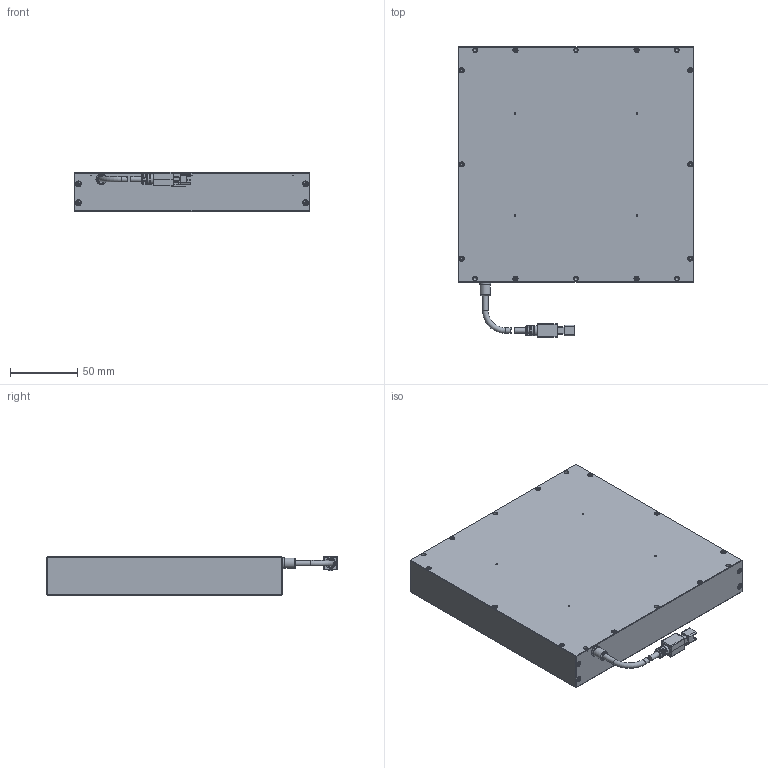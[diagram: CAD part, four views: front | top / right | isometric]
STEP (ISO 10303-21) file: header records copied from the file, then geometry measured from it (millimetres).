
FILE_DESCRIPTION (( 'STEP AP203' ), '1' );
FILE_NAME ('OPT-IFLA175175-IR-V1.0尨砩芞.STEP', '2024-12-17T08:27:48', ( '' ), ( '' ), 'SwSTEP 2.0', 'SolidWorks 2016', '' );
FILE_SCHEMA (( 'CONFIG_CONTROL_DESIGN' ));
Products named in the file (1): OPT-IFLA175175-IR-V1.0尨砩芞
Bounding box: 175 x 216 x 29 mm (x, y, z)
Volume: 857158.8 mm3; surface area: 95125 mm2
Topology: 17 solids, 25 shells, 964 faces, 2328 edges, 1463 vertices
Faces by surface type: plane 536, cylinder 255, cone 90, bspline 74, torus 9
Full cylindrical faces by diameter (mm): 1.1 x4, 1.6 x18, 2 x18, 2.4 x18, 2.5 x6, 3.4 x6, 3.5 x1, 3.8 x18, 4.1 x4, 5.8 x1, 7.5 x2, 8 x1
Entity records: 52918 total; most frequent: CARTESIAN_POINT 32174, DIRECTION 4150, ORIENTED_EDGE 4104, EDGE_CURVE 2052, AXIS2_PLACEMENT_3D 1397, VERTEX_POINT 1383, LINE 1356, VECTOR 1356
